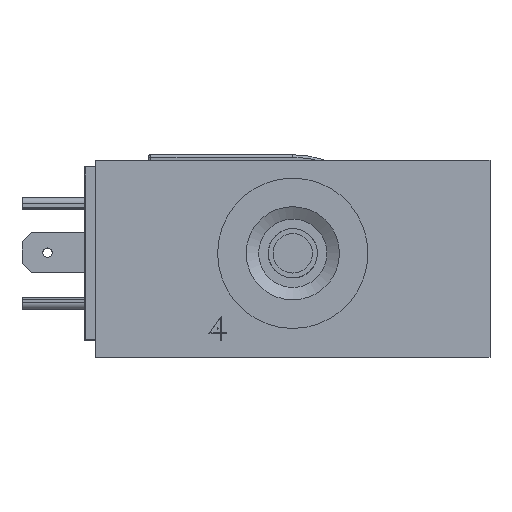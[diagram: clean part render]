
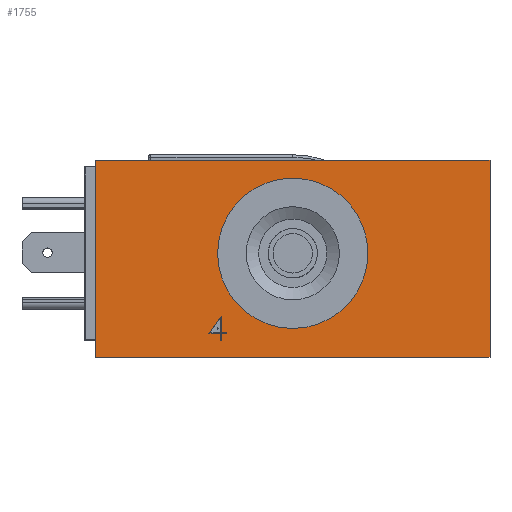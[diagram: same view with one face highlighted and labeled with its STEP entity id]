
A CAD part, left-side view. The second image highlights one B-rep face of the part: STEP entity #1755.
In plain terms, the highlighted planar face has unit normal (-1, 0, 0).
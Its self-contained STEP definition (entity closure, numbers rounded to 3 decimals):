
#1755 = ADVANCED_FACE( '', ( #3567, #3568, #3569 ), #3570, .T. );
#3567 = FACE_BOUND( '', #5627, .T. );
#3568 = FACE_OUTER_BOUND( '', #5628, .T. );
#3569 = FACE_BOUND( '', #5629, .T. );
#3570 = PLANE( '', #5630 );
#5627 = EDGE_LOOP( '', ( #9111 ) );
#5628 = EDGE_LOOP( '', ( #9112, #9113, #9114, #9115 ) );
#5629 = EDGE_LOOP( '', ( #9116, #9117, #9118, #9119, #9120, #9121, #9122, #9123, #9124 ) );
#5630 = AXIS2_PLACEMENT_3D( '', #9125, #9126, #9127 );
#9111 = ORIENTED_EDGE( '', *, *, #11301, .T. );
#9112 = ORIENTED_EDGE( '', *, *, #11234, .F. );
#9113 = ORIENTED_EDGE( '', *, *, #10826, .F. );
#9114 = ORIENTED_EDGE( '', *, *, #11662, .T. );
#9115 = ORIENTED_EDGE( '', *, *, #11696, .T. );
#9116 = ORIENTED_EDGE( '', *, *, #11376, .T. );
#9117 = ORIENTED_EDGE( '', *, *, #11737, .T. );
#9118 = ORIENTED_EDGE( '', *, *, #11738, .T. );
#9119 = ORIENTED_EDGE( '', *, *, #11739, .T. );
#9120 = ORIENTED_EDGE( '', *, *, #11637, .T. );
#9121 = ORIENTED_EDGE( '', *, *, #11097, .T. );
#9122 = ORIENTED_EDGE( '', *, *, #11740, .T. );
#9123 = ORIENTED_EDGE( '', *, *, #11400, .T. );
#9124 = ORIENTED_EDGE( '', *, *, #11034, .T. );
#9125 = CARTESIAN_POINT( '', ( -41., -31.75, 31.75 ) );
#9126 = DIRECTION( '', ( -1., 0., 0. ) );
#9127 = DIRECTION( '', ( 0., -1., 0. ) );
#10826 = EDGE_CURVE( '', #13371, #13367, #13373, .T. );
#11034 = EDGE_CURVE( '', #13713, #13714, #13715, .T. );
#11097 = EDGE_CURVE( '', #13813, #13814, #13815, .T. );
#11234 = EDGE_CURVE( '', #13367, #14024, #14025, .T. );
#11301 = EDGE_CURVE( '', #14131, #14131, #14132, .T. );
#11376 = EDGE_CURVE( '', #13714, #14246, #14247, .T. );
#11400 = EDGE_CURVE( '', #14283, #13713, #14284, .T. );
#11637 = EDGE_CURVE( '', #14607, #13813, #14608, .T. );
#11662 = EDGE_CURVE( '', #13371, #14637, #14639, .T. );
#11696 = EDGE_CURVE( '', #14637, #14024, #14678, .T. );
#11737 = EDGE_CURVE( '', #14246, #14733, #14734, .T. );
#11738 = EDGE_CURVE( '', #14733, #14735, #14736, .T. );
#11739 = EDGE_CURVE( '', #14735, #14607, #14737, .T. );
#11740 = EDGE_CURVE( '', #13814, #14283, #14738, .T. );
#13367 = VERTEX_POINT( '', #16719 );
#13371 = VERTEX_POINT( '', #16725 );
#13373 = LINE( '', #16728, #16729 );
#13713 = VERTEX_POINT( '', #17739 );
#13714 = VERTEX_POINT( '', #17740 );
#13715 = B_SPLINE_CURVE_WITH_KNOTS( '', 1, ( #17741, #17742 ), .UNSPECIFIED., .F., .F., ( 2, 2 ), ( 0.707, 0.924 ), .UNSPECIFIED. );
#13813 = VERTEX_POINT( '', #17970 );
#13814 = VERTEX_POINT( '', #17971 );
#13815 = B_SPLINE_CURVE_WITH_KNOTS( '', 1, ( #17972, #17973 ), .UNSPECIFIED., .F., .F., ( 2, 2 ), ( 0.178, 0.28 ), .UNSPECIFIED. );
#14024 = VERTEX_POINT( '', #18806 );
#14025 = LINE( '', #18807, #18808 );
#14131 = VERTEX_POINT( '', #19185 );
#14132 = CIRCLE( '', #19186, 12.1 );
#14246 = VERTEX_POINT( '', #19501 );
#14247 = B_SPLINE_CURVE_WITH_KNOTS( '', 1, ( #19502, #19503 ), .UNSPECIFIED., .F., .F., ( 2, 2 ), ( 0.924, 0.994 ), .UNSPECIFIED. );
#14283 = VERTEX_POINT( '', #19568 );
#14284 = B_SPLINE_CURVE_WITH_KNOTS( '', 1, ( #19569, #19570 ), .UNSPECIFIED., .F., .F., ( 2, 2 ), ( 0.433, 0.707 ), .UNSPECIFIED. );
#14607 = VERTEX_POINT( '', #20434 );
#14608 = B_SPLINE_CURVE_WITH_KNOTS( '', 1, ( #20435, #20436 ), .UNSPECIFIED., .F., .F., ( 2, 2 ), ( 0.172, 0.178 ), .UNSPECIFIED. );
#14637 = VERTEX_POINT( '', #20490 );
#14639 = LINE( '', #20493, #20494 );
#14678 = LINE( '', #20614, #20615 );
#14733 = VERTEX_POINT( '', #20700 );
#14734 = B_SPLINE_CURVE_WITH_KNOTS( '', 1, ( #20701, #20702 ), .UNSPECIFIED., .F., .F., ( 2, 2 ), ( 0.994, 1. ), .UNSPECIFIED. );
#14735 = VERTEX_POINT( '', #20703 );
#14736 = B_SPLINE_CURVE_WITH_KNOTS( '', 1, ( #20704, #20705 ), .UNSPECIFIED., .F., .F., ( 2, 2 ), ( 0., 0.07 ), .UNSPECIFIED. );
#14737 = B_SPLINE_CURVE_WITH_KNOTS( '', 1, ( #20706, #20707 ), .UNSPECIFIED., .F., .F., ( 2, 2 ), ( 0.07, 0.172 ), .UNSPECIFIED. );
#14738 = B_SPLINE_CURVE_WITH_KNOTS( '', 1, ( #20708, #20709 ), .UNSPECIFIED., .F., .F., ( 2, 2 ), ( 0.28, 0.433 ), .UNSPECIFIED. );
#16719 = CARTESIAN_POINT( '', ( -41., -31.75, 0. ) );
#16725 = CARTESIAN_POINT( '', ( -41., -31.75, 31.75 ) );
#16728 = CARTESIAN_POINT( '', ( -41., -31.75, 31.75 ) );
#16729 = VECTOR( '', #21907, 1000. );
#17739 = CARTESIAN_POINT( '', ( -41., 11.553, 6.65 ) );
#17740 = CARTESIAN_POINT( '', ( -41., 11.553, 3.983 ) );
#17741 = CARTESIAN_POINT( '', ( -41., 11.553, 6.65 ) );
#17742 = CARTESIAN_POINT( '', ( -41., 11.553, 3.983 ) );
#17970 = CARTESIAN_POINT( '', ( -41., 11.633, 2.65 ) );
#17971 = CARTESIAN_POINT( '', ( -41., 11.633, 3.904 ) );
#17972 = CARTESIAN_POINT( '', ( -41., 11.633, 2.65 ) );
#17973 = CARTESIAN_POINT( '', ( -41., 11.633, 3.904 ) );
#18806 = CARTESIAN_POINT( '', ( -41., 31.75, 0. ) );
#18807 = CARTESIAN_POINT( '', ( -41., -31.75, 0. ) );
#18808 = VECTOR( '', #22350, 1000. );
#19185 = CARTESIAN_POINT( '', ( -41., -12.1, 16.75 ) );
#19186 = AXIS2_PLACEMENT_3D( '', #22406, #22407, #22408 );
#19501 = CARTESIAN_POINT( '', ( -41., 10.698, 3.983 ) );
#19502 = CARTESIAN_POINT( '', ( -41., 11.553, 3.983 ) );
#19503 = CARTESIAN_POINT( '', ( -41., 10.698, 3.983 ) );
#19568 = CARTESIAN_POINT( '', ( -41., 13.502, 3.904 ) );
#19569 = CARTESIAN_POINT( '', ( -41., 13.502, 3.904 ) );
#19570 = CARTESIAN_POINT( '', ( -41., 11.553, 6.65 ) );
#20434 = CARTESIAN_POINT( '', ( -41., 11.553, 2.65 ) );
#20435 = CARTESIAN_POINT( '', ( -41., 11.553, 2.65 ) );
#20436 = CARTESIAN_POINT( '', ( -41., 11.633, 2.65 ) );
#20490 = CARTESIAN_POINT( '', ( -41., 31.75, 31.75 ) );
#20493 = CARTESIAN_POINT( '', ( -41., -31.75, 31.75 ) );
#20494 = VECTOR( '', #22694, 1000. );
#20614 = CARTESIAN_POINT( '', ( -41., 31.75, 31.75 ) );
#20615 = VECTOR( '', #22717, 1000. );
#20700 = CARTESIAN_POINT( '', ( -41., 10.698, 3.904 ) );
#20701 = CARTESIAN_POINT( '', ( -41., 10.698, 3.983 ) );
#20702 = CARTESIAN_POINT( '', ( -41., 10.698, 3.904 ) );
#20703 = CARTESIAN_POINT( '', ( -41., 11.553, 3.904 ) );
#20704 = CARTESIAN_POINT( '', ( -41., 10.698, 3.904 ) );
#20705 = CARTESIAN_POINT( '', ( -41., 11.553, 3.904 ) );
#20706 = CARTESIAN_POINT( '', ( -41., 11.553, 3.904 ) );
#20707 = CARTESIAN_POINT( '', ( -41., 11.553, 2.65 ) );
#20708 = CARTESIAN_POINT( '', ( -41., 11.633, 3.904 ) );
#20709 = CARTESIAN_POINT( '', ( -41., 13.502, 3.904 ) );
#21907 = DIRECTION( '', ( 0., 0., -1. ) );
#22350 = DIRECTION( '', ( 0., 1., 0. ) );
#22406 = CARTESIAN_POINT( '', ( -41., 0., 16.75 ) );
#22407 = DIRECTION( '', ( 1., 0., 0. ) );
#22408 = DIRECTION( '', ( 0., -1., 0. ) );
#22694 = DIRECTION( '', ( 0., 1., 0. ) );
#22717 = DIRECTION( '', ( 0., 0., -1. ) );
